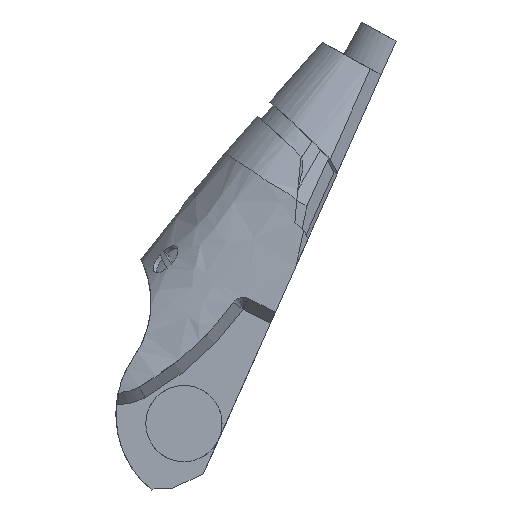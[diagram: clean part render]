
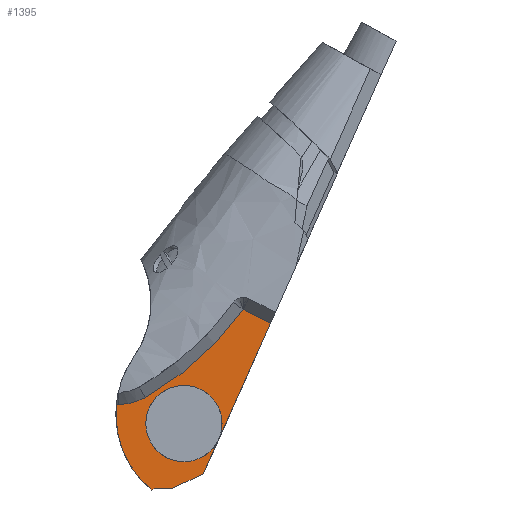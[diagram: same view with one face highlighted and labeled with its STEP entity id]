
A CAD part, left-side view. The second image highlights one B-rep face of the part: STEP entity #1395.
In plain terms, the highlighted planar face has unit normal (-1, 0, 0).
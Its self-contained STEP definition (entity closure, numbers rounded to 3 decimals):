
#169 = CARTESIAN_POINT ( 'NONE',  ( -6., 0., 0. ) ) ;
#263 = DIRECTION ( 'NONE',  ( 1., 0., 0. ) ) ;
#290 = EDGE_CURVE ( 'NONE', #8785, #5827, #16047, .T. ) ;
#419 = CARTESIAN_POINT ( 'NONE',  ( -6., 2.442, -5.295 ) ) ;
#486 = VERTEX_POINT ( 'NONE', #5847 ) ;
#567 = DIRECTION ( 'NONE',  ( 1., 0., 0. ) ) ;
#959 = CARTESIAN_POINT ( 'NONE',  ( -6., 0., 0. ) ) ;
#989 = DIRECTION ( 'NONE',  ( 1., 0., 0. ) ) ;
#1015 = CARTESIAN_POINT ( 'NONE',  ( -6., -17.37, 31.302 ) ) ;
#1267 = CARTESIAN_POINT ( 'NONE',  ( -6., -1.067, -5.295 ) ) ;
#1286 = EDGE_LOOP ( 'NONE', ( #3430, #2795 ) ) ;
#1395 = ADVANCED_FACE ( 'NONE', ( #6650, #17180 ), #17266, .F. ) ;
#1637 = LINE ( 'NONE', #12444, #13606 ) ;
#1805 = ORIENTED_EDGE ( 'NONE', *, *, #16750, .T. ) ;
#2257 = DIRECTION ( 'NONE',  ( 0., 1., 0. ) ) ;
#2393 = CARTESIAN_POINT ( 'NONE',  ( -6., 0., 3.117 ) ) ;
#2795 = ORIENTED_EDGE ( 'NONE', *, *, #6364, .T. ) ;
#3092 = AXIS2_PLACEMENT_3D ( 'NONE', #9125, #13278, #17083 ) ;
#3385 = VECTOR ( 'NONE', #5498, 1000. ) ;
#3430 = ORIENTED_EDGE ( 'NONE', *, *, #12662, .T. ) ;
#3460 = EDGE_CURVE ( 'NONE', #16207, #11521, #1637, .T. ) ;
#3912 = CARTESIAN_POINT ( 'NONE',  ( -6., 0.933, -5.295 ) ) ;
#4116 = EDGE_CURVE ( 'NONE', #16207, #486, #10562, .T. ) ;
#4260 = CARTESIAN_POINT ( 'NONE',  ( -6., -1.591, -4.118 ) ) ;
#4291 = AXIS2_PLACEMENT_3D ( 'NONE', #169, #6894, #9714 ) ;
#4299 = DIRECTION ( 'NONE',  ( 0., 0.891, 0.455 ) ) ;
#5182 = CIRCLE ( 'NONE', #15078, 3.117 ) ;
#5225 = CARTESIAN_POINT ( 'NONE',  ( -6., -2.567, 0.785 ) ) ;
#5315 = DIRECTION ( 'NONE',  ( 0., 0., -1. ) ) ;
#5324 = ORIENTED_EDGE ( 'NONE', *, *, #4116, .F. ) ;
#5344 = CARTESIAN_POINT ( 'NONE',  ( -6., -4.848, 9.338 ) ) ;
#5392 = CARTESIAN_POINT ( 'NONE',  ( -6., 3.166, 2.129 ) ) ;
#5411 = CARTESIAN_POINT ( 'NONE',  ( -6., -7.078, 8.2 ) ) ;
#5498 = DIRECTION ( 'NONE',  ( 0., -0.906, 0.423 ) ) ;
#5517 = CARTESIAN_POINT ( 'NONE',  ( -6., 0., -3.117 ) ) ;
#5827 = VERTEX_POINT ( 'NONE', #11458 ) ;
#5847 = CARTESIAN_POINT ( 'NONE',  ( -6., -1.591, -4.118 ) ) ;
#6209 = AXIS2_PLACEMENT_3D ( 'NONE', #10885, #263, #15138 ) ;
#6271 = VECTOR ( 'NONE', #2257, 1000. ) ;
#6364 = EDGE_CURVE ( 'NONE', #16740, #15051, #16722, .T. ) ;
#6419 = DIRECTION ( 'NONE',  ( 0., 0.407, -0.913 ) ) ;
#6650 = FACE_BOUND ( 'NONE', #1286, .T. ) ;
#6833 = CARTESIAN_POINT ( 'NONE',  ( -6., 5.33, 1.561 ) ) ;
#6894 = DIRECTION ( 'NONE',  ( 1., 0., 0. ) ) ;
#7322 = ORIENTED_EDGE ( 'NONE', *, *, #290, .F. ) ;
#7567 = CARTESIAN_POINT ( 'NONE',  ( -6., 2.677, -5.439 ) ) ;
#8000 = EDGE_CURVE ( 'NONE', #12001, #8976, #9651, .T. ) ;
#8069 = ORIENTED_EDGE ( 'NONE', *, *, #8000, .T. ) ;
#8243 = EDGE_LOOP ( 'NONE', ( #7322, #12765, #5324, #9567, #1805, #8069, #14474, #13886, #16859 ) ) ;
#8300 = CIRCLE ( 'NONE', #13394, 8.139 ) ;
#8785 = VERTEX_POINT ( 'NONE', #3912 ) ;
#8905 = CARTESIAN_POINT ( 'NONE',  ( -6., 5.534, 1.566 ) ) ;
#8976 = VERTEX_POINT ( 'NONE', #6833 ) ;
#9102 = VECTOR ( 'NONE', #6419, 1000. ) ;
#9109 = DIRECTION ( 'NONE',  ( 0., 0., -1. ) ) ;
#9125 = CARTESIAN_POINT ( 'NONE',  ( -6., 15.324, 23.703 ) ) ;
#9567 = ORIENTED_EDGE ( 'NONE', *, *, #3460, .T. ) ;
#9651 = CIRCLE ( 'NONE', #13928, 4.408 ) ;
#9714 = DIRECTION ( 'NONE',  ( 0., 0., -1. ) ) ;
#10194 = EDGE_CURVE ( 'NONE', #5827, #11705, #15114, .T. ) ;
#10562 = LINE ( 'NONE', #1015, #9102 ) ;
#10884 = DIRECTION ( 'NONE',  ( 1., 0., 0. ) ) ;
#10885 = CARTESIAN_POINT ( 'NONE',  ( -6., 5.33, 5.969 ) ) ;
#10944 = EDGE_CURVE ( 'NONE', #11705, #14009, #8300, .T. ) ;
#11417 = VECTOR ( 'NONE', #16345, 1000. ) ;
#11458 = CARTESIAN_POINT ( 'NONE',  ( -6., 2.442, -5.295 ) ) ;
#11521 = VERTEX_POINT ( 'NONE', #5344 ) ;
#11705 = VERTEX_POINT ( 'NONE', #7567 ) ;
#11714 = CARTESIAN_POINT ( 'NONE',  ( -6., -2.567, 0.785 ) ) ;
#12001 = VERTEX_POINT ( 'NONE', #5392 ) ;
#12444 = CARTESIAN_POINT ( 'NONE',  ( -6., -4.848, 9.338 ) ) ;
#12662 = EDGE_CURVE ( 'NONE', #15051, #16740, #5182, .T. ) ;
#12765 = ORIENTED_EDGE ( 'NONE', *, *, #16455, .T. ) ;
#13278 = DIRECTION ( 'NONE',  ( 1., 0., 0. ) ) ;
#13280 = CIRCLE ( 'NONE', #3092, 24.764 ) ;
#13394 = AXIS2_PLACEMENT_3D ( 'NONE', #11714, #567, #15527 ) ;
#13606 = VECTOR ( 'NONE', #4299, 1000. ) ;
#13838 = CIRCLE ( 'NONE', #6209, 4.408 ) ;
#13886 = ORIENTED_EDGE ( 'NONE', *, *, #10944, .F. ) ;
#13928 = AXIS2_PLACEMENT_3D ( 'NONE', #16281, #10884, #14872 ) ;
#14009 = VERTEX_POINT ( 'NONE', #8905 ) ;
#14474 = ORIENTED_EDGE ( 'NONE', *, *, #15220, .T. ) ;
#14872 = DIRECTION ( 'NONE',  ( 0., 0., -1. ) ) ;
#15051 = VERTEX_POINT ( 'NONE', #5517 ) ;
#15078 = AXIS2_PLACEMENT_3D ( 'NONE', #959, #15819, #9109 ) ;
#15114 = LINE ( 'NONE', #419, #11417 ) ;
#15138 = DIRECTION ( 'NONE',  ( 0., 0., -1. ) ) ;
#15220 = EDGE_CURVE ( 'NONE', #8976, #14009, #13838, .T. ) ;
#15527 = DIRECTION ( 'NONE',  ( 0., 0., -1. ) ) ;
#15819 = DIRECTION ( 'NONE',  ( 1., 0., 0. ) ) ;
#16047 = LINE ( 'NONE', #1267, #6271 ) ;
#16150 = AXIS2_PLACEMENT_3D ( 'NONE', #5225, #989, #5315 ) ;
#16207 = VERTEX_POINT ( 'NONE', #5411 ) ;
#16281 = CARTESIAN_POINT ( 'NONE',  ( -6., 5.33, 5.969 ) ) ;
#16345 = DIRECTION ( 'NONE',  ( 0., 0.851, -0.524 ) ) ;
#16376 = LINE ( 'NONE', #4260, #3385 ) ;
#16455 = EDGE_CURVE ( 'NONE', #8785, #486, #16376, .T. ) ;
#16722 = CIRCLE ( 'NONE', #4291, 3.117 ) ;
#16740 = VERTEX_POINT ( 'NONE', #2393 ) ;
#16750 = EDGE_CURVE ( 'NONE', #11521, #12001, #13280, .T. ) ;
#16859 = ORIENTED_EDGE ( 'NONE', *, *, #10194, .F. ) ;
#17083 = DIRECTION ( 'NONE',  ( 0., 0., -1. ) ) ;
#17180 = FACE_OUTER_BOUND ( 'NONE', #8243, .T. ) ;
#17266 = PLANE ( 'NONE',  #16150 ) ;
